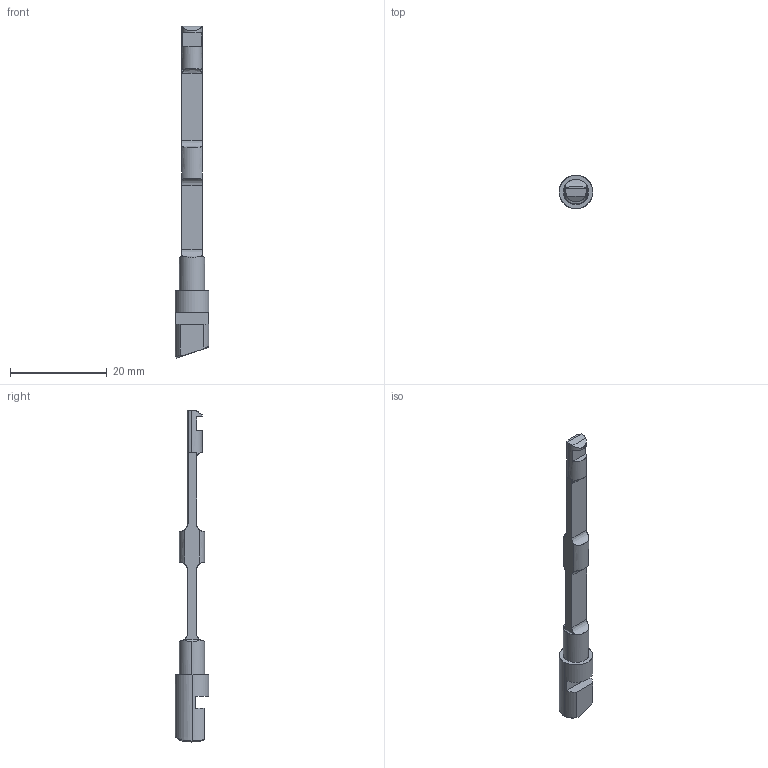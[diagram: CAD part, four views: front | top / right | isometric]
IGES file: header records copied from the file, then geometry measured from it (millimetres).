
Start section: SolidWorks IGES file using analytic representation for surfaces
Global section: file name: \\PSSILO\catalogs\CONTENTCENTRAL\extractor\Cache\3D3AD12B-3F81-45C8-B47F-F834C4B9EAFE.IGS; native system: SolidWorks 2009; preprocessor: SolidWorks 2009; author: partstream; date: 090718.235421; units: inch
Bounding box: 6.96 x 6.96 x 68.48 mm (x, y, z)
Surface area: 1104 mm2 (no closed solid volume)
Topology: 0 solids, 0 shells, 54 faces, 609 edges, 609 vertices
Faces by surface type: bspline 34, revolution 20
